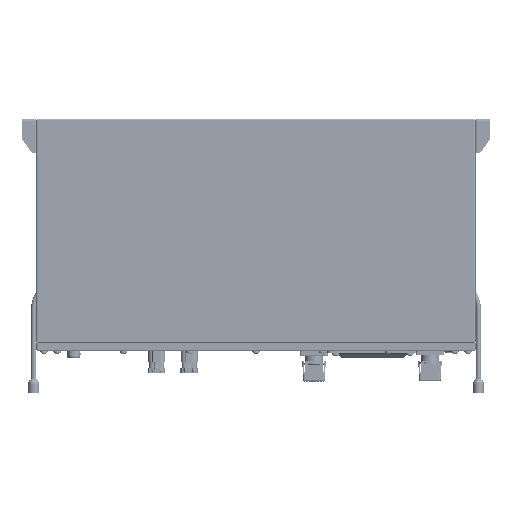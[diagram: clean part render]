
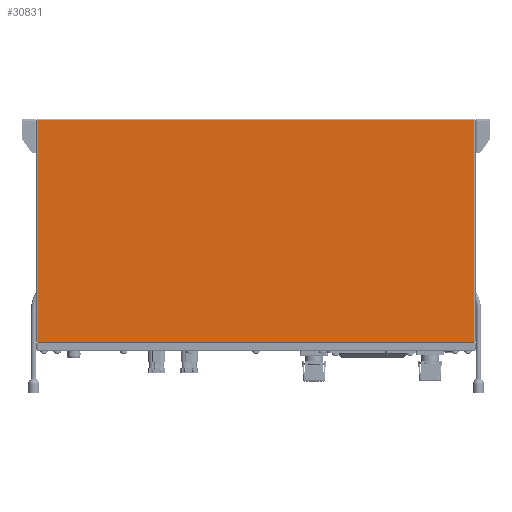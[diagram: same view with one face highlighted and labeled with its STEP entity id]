
A CAD part, top view. The second image highlights one B-rep face of the part: STEP entity #30831.
In plain terms, the highlighted planar face has unit normal (0, 0, 1).
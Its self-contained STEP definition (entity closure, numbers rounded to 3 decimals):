
#77 = ORIENTED_EDGE ( 'NONE', *, *, #174129, .T. ) ;
#4212 = VECTOR ( 'NONE', #123654, 1000. ) ;
#4260 = VECTOR ( 'NONE', #88035, 1000. ) ;
#6837 = VERTEX_POINT ( 'NONE', #41249 ) ;
#6949 = LINE ( 'NONE', #77062, #4260 ) ;
#14387 = CARTESIAN_POINT ( 'NONE',  ( 263.5, -130.25, 107.5 ) ) ;
#23584 = EDGE_LOOP ( 'NONE', ( #130175, #134837, #91760, #77 ) ) ;
#27067 = CARTESIAN_POINT ( 'NONE',  ( -263.5, -130.25, 107.5 ) ) ;
#28397 = DIRECTION ( 'NONE',  ( 0., 0., 1. ) ) ;
#29287 = FACE_OUTER_BOUND ( 'NONE', #23584, .T. ) ;
#30831 = ADVANCED_FACE ( 'NONE', ( #29287 ), #59335, .T. ) ;
#34890 = EDGE_CURVE ( 'NONE', #80017, #6837, #95975, .T. ) ;
#41249 = CARTESIAN_POINT ( 'NONE',  ( -263.5, 136.75, 107.5 ) ) ;
#42974 = CARTESIAN_POINT ( 'NONE',  ( 0., 0., 107.5 ) ) ;
#51261 = VERTEX_POINT ( 'NONE', #111667 ) ;
#53878 = VERTEX_POINT ( 'NONE', #70508 ) ;
#59335 = PLANE ( 'NONE',  #117115 ) ;
#70508 = CARTESIAN_POINT ( 'NONE',  ( -263.5, -130.25, 107.5 ) ) ;
#70771 = DIRECTION ( 'NONE',  ( 1., 0., 0. ) ) ;
#77062 = CARTESIAN_POINT ( 'NONE',  ( -263.5, 136.75, 107.5 ) ) ;
#80017 = VERTEX_POINT ( 'NONE', #178846 ) ;
#81392 = DIRECTION ( 'NONE',  ( -1., 0., 0. ) ) ;
#88035 = DIRECTION ( 'NONE',  ( 0., -1., 0. ) ) ;
#91760 = ORIENTED_EDGE ( 'NONE', *, *, #174239, .T. ) ;
#94314 = VECTOR ( 'NONE', #70771, 1000. ) ;
#95975 = LINE ( 'NONE', #167962, #167325 ) ;
#109956 = LINE ( 'NONE', #27067, #94314 ) ;
#111667 = CARTESIAN_POINT ( 'NONE',  ( 263.5, -130.25, 107.5 ) ) ;
#114857 = DIRECTION ( 'NONE',  ( 1., 0., 0. ) ) ;
#117115 = AXIS2_PLACEMENT_3D ( 'NONE', #42974, #28397, #114857 ) ;
#123654 = DIRECTION ( 'NONE',  ( 0., 1., 0. ) ) ;
#130175 = ORIENTED_EDGE ( 'NONE', *, *, #150831, .T. ) ;
#134837 = ORIENTED_EDGE ( 'NONE', *, *, #34890, .T. ) ;
#140067 = LINE ( 'NONE', #14387, #4212 ) ;
#150831 = EDGE_CURVE ( 'NONE', #51261, #80017, #140067, .T. ) ;
#167325 = VECTOR ( 'NONE', #81392, 1000. ) ;
#167962 = CARTESIAN_POINT ( 'NONE',  ( 263.5, 136.75, 107.5 ) ) ;
#174129 = EDGE_CURVE ( 'NONE', #53878, #51261, #109956, .T. ) ;
#174239 = EDGE_CURVE ( 'NONE', #6837, #53878, #6949, .T. ) ;
#178846 = CARTESIAN_POINT ( 'NONE',  ( 263.5, 136.75, 107.5 ) ) ;
